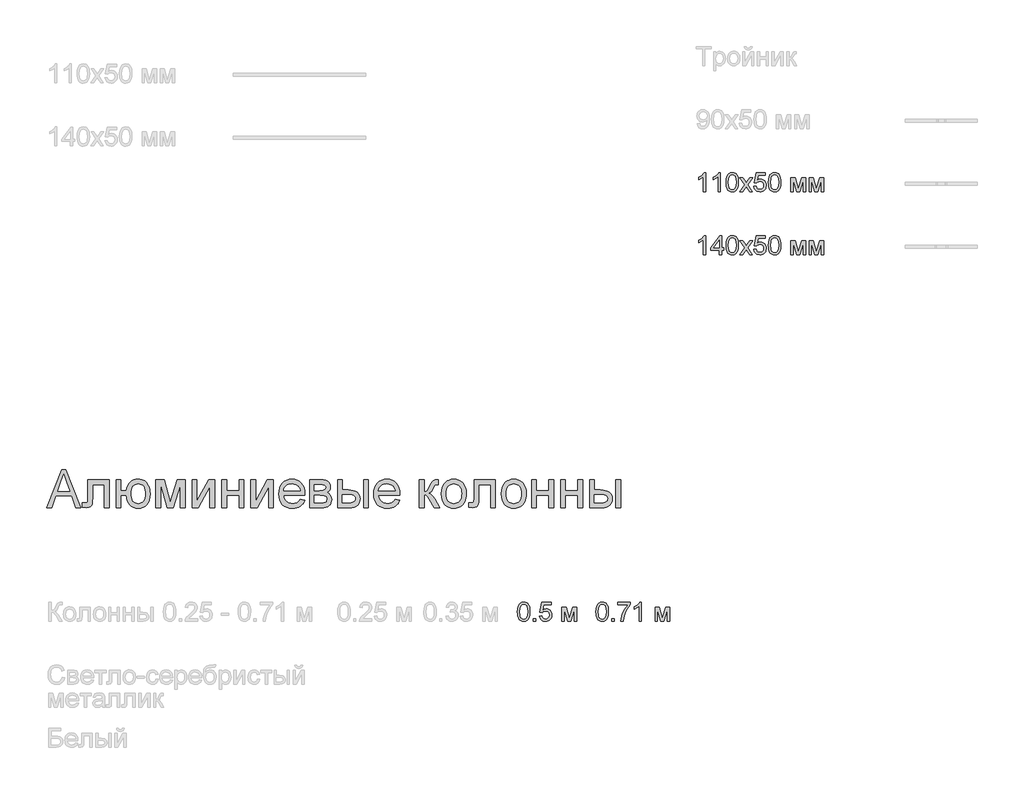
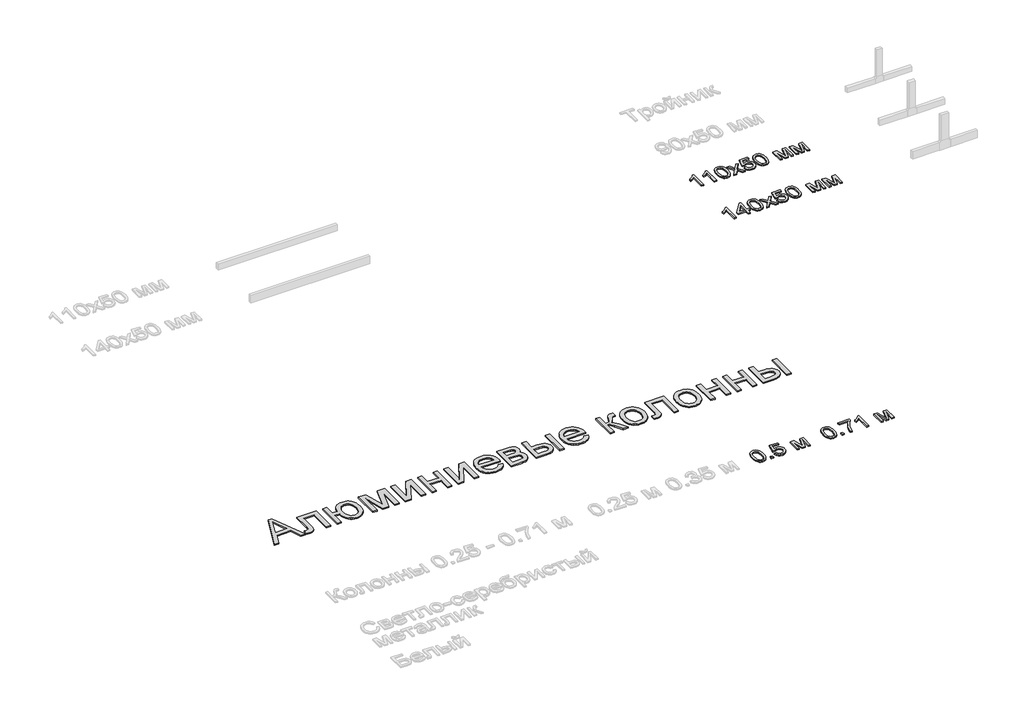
# One storey, part 79 of 168: 5 proxies.
"""IFC4 building model written with IfcOpenShell, lengths in millimetres."""

from ifc_helpers import new_model, si_unit, origin, origin_with_axes, place, context, project, spatial, polyline, outline, extrude, element, save

model = new_model("IFC4")

# Units and contexts
model_context = context("Model", 3, world=origin())
ifc_project = project(units=[si_unit("LENGTHUNIT", "METRE", prefix="MILLI")], contexts=[model_context])

# Site, building, storey
site = spatial("IfcSite", under=ifc_project)
building = spatial("IfcBuilding", under=site)
storey = spatial("IfcBuildingStorey", under=building, Name="Этаж 01", Elevation=0.0)

# Proxies
placement = place(None, origin())
element("IfcBuildingElementProxy", 1, Name="300 мм Arial 2", ObjectType="300 мм Arial 2", at=placement, inside=storey, context=model_context, shape_type="SweptSolid", body=[
    extrude(outline(polyline([(11205.9577491, -24148.4056816), (11168.2866328, -24148.4056816), (11168.2866328, -23913.5498158), (11132.6020793, -23938.9704617), (11092.9444002, -23957.9899609), (11092.9444002, -23922.3789837), (11122.5313096, -23906.2841464), (11148.1634877, -23887.1358886), (11168.3694062, -23866.7736202), (11181.6775374, -23847.0367511), (11205.9577491, -23847.0367511), (11205.9577491, -24148.4056816)])), origin_with_axes(), (0.0, 0.0, 1.0), 20.0),
    extrude(outline(polyline([(11436.6933365, -24148.4056816), (11399.0222202, -24148.4056816), (11399.0222202, -23913.5498158), (11363.3376666, -23938.9704617), (11323.6799876, -23957.9899609), (11323.6799876, -23922.3789837), (11353.266897, -23906.2841464), (11378.899075, -23887.1358886), (11399.1049936, -23866.7736202), (11412.4131248, -23847.0367511), (11436.6933365, -23847.0367511), (11436.6933365, -24148.4056816)])), origin_with_axes(), (0.0, 0.0, 1.0), 20.0),
    extrude(outline(polyline([(11526.1622377, -24000.1492375), (11528.9305497, -23951.9107109), (11537.2354858, -23913.4394512), (11550.9942724, -23884.1468474), (11570.1241361, -23863.4442881), (11594.7630327, -23851.1386354), (11625.048918, -23847.0367511), (11648.2622719, -23849.4647723), (11669.0476046, -23856.7488358), (11686.4300289, -23868.6038331), (11699.4346574, -23884.7446556), (11709.2571067, -23905.0333477), (11717.0929932, -23929.3319534), (11722.224947, -23960.1880558), (11723.9355983, -24000.1492375), (11721.1948774, -24048.1118526), (11712.9727148, -24086.4911418), (11699.2967017, -24115.8113368), (11680.1944291, -24136.5966695), (11655.5003502, -24148.9850957), (11625.048918, -24153.1145711), (11604.3003735, -24151.3211464), (11585.9062737, -24145.9408722), (11569.8666187, -24136.9737486), (11556.1814085, -24124.4197755), (11543.0480213, -24101.7260549), (11533.6670304, -24073.4497251), (11528.0384359, -24039.5907859), (11526.1622377, -24000.1492375)]), holes=[polyline([(11563.833354, -24000.0756611), (11568.2479379, -24059.3322535), (11573.7661679, -24079.6002522), (11581.4916898, -24093.6280525), (11601.2101647, -24109.9896042), (11625.048918, -24115.4434548), (11648.8876713, -24109.9712101), (11668.6061462, -24093.5544761), (11676.3316681, -24079.5036831), (11681.8498981, -24059.240283), (11686.264482, -24000.0756611), (11681.9970509, -23942.152641), (11676.6627619, -23921.9513209), (11669.1947574, -23907.5901275), (11649.5130707, -23890.4284325), (11624.6074596, -23884.7078674), (11601.0262237, -23889.7478508), (11582.080301, -23904.8678008), (11574.0972617, -23920.5027856), (11568.3950907, -23941.5824239), (11563.833354, -24000.0756611)])]), origin_with_axes(), (0.0, 0.0, 1.0), 20.0),
    extrude(outline(polyline([(11742.7711565, -24148.4056816), (11823.263737, -24037.1581662), (11747.480046, -23927.0878733), (11792.8031078, -23927.0878733), (11829.3705781, -23980.0628806), (11846.4403027, -24005.0788562), (11861.2291589, -23984.6246173), (11902.8734008, -23927.0878733), (11948.1964626, -23927.0878733), (11868.5867988, -24037.1581662), (11945.2534066, -24148.4056816), (11899.9303448, -24148.4056816), (11853.7979426, -24081.5247348), (11845.3366567, -24069.3110526), (11788.0942183, -24148.4056816), (11742.7711565, -24148.4056816)])), origin_with_axes(), (0.0, 0.0, 1.0), 20.0),
    extrude(outline(polyline([(11968.7978543, -24068.3545594), (12006.4689706, -24063.6456699), (12013.3851521, -24086.2612155), (12025.4516816, -24102.4572204), (12042.6133766, -24112.1968962), (12064.815055, -24115.4434548), (12091.8175935, -24110.9277033), (12112.0511032, -24097.3804488), (12124.6878498, -24076.3651899), (12128.9000986, -24049.4454249), (12124.9545642, -24024.0983554), (12113.117961, -24004.7109743), (12093.2983185, -23992.4053215), (12065.4036662, -23988.3034373), (12047.1291281, -23989.9405121), (12032.3310749, -23994.8517368), (12011.1778601, -24011.847885), (11973.5067438, -24007.1389954), (12006.4689706, -23851.7456407), (12152.4445463, -23851.7456407), (12152.4445463, -23889.416757), (12036.9295998, -23889.416757), (12020.8163684, -23972.4109351), (12047.7269364, -23956.0769745), (12075.9250913, -23950.632321), (12094.2709065, -23952.3199796), (12111.1222012, -23957.3829556), (12126.4789752, -23965.8212488), (12140.3412286, -23977.6348594), (12151.8168476, -23992.1018189), (12160.0137183, -24008.5001588), (12164.9318408, -24026.8298792), (12166.5712149, -24047.0909801), (12160.6667089, -24084.7620964), (12153.2860764, -24101.5559095), (12142.9531908, -24116.9885592), (12127.2998119, -24132.7936894), (12109.0344709, -24144.0830681), (12088.1571676, -24150.8566954), (12064.6679022, -24153.1145711), (12027.6681706, -24147.3112326), (12011.9894998, -24140.0570595), (11998.1916257, -24129.9012172), (11986.7114082, -24117.3495434), (11977.9857071, -24102.9078758), (11968.7978543, -24068.3545594)])), origin_with_axes(), (0.0, 0.0, 1.0), 20.0),
    extrude(outline(polyline([(12199.5334417, -24000.1492375), (12202.3017537, -23951.9107109), (12210.6066897, -23913.4394512), (12224.3654763, -23884.1468474), (12243.4953401, -23863.4442881), (12268.1342367, -23851.1386354), (12298.420122, -23847.0367511), (12321.6334759, -23849.4647723), (12342.4188086, -23856.7488358), (12359.8012329, -23868.6038331), (12372.8058614, -23884.7446556), (12382.6283107, -23905.0333477), (12390.4641972, -23929.3319534), (12395.596151, -23960.1880558), (12397.3068023, -24000.1492375), (12394.5660814, -24048.1118526), (12386.3439188, -24086.4911418), (12372.6679056, -24115.8113368), (12353.565633, -24136.5966695), (12328.8715541, -24148.9850957), (12298.420122, -24153.1145711), (12277.6715774, -24151.3211464), (12259.2774777, -24145.9408722), (12243.2378227, -24136.9737486), (12229.5526125, -24124.4197755), (12216.4192252, -24101.7260549), (12207.0382344, -24073.4497251), (12201.4096398, -24039.5907859), (12199.5334417, -24000.1492375)]), holes=[polyline([(12237.204558, -24000.0756611), (12241.6191419, -24059.3322535), (12247.1373718, -24079.6002522), (12254.8628937, -24093.6280525), (12274.5813687, -24109.9896042), (12298.420122, -24115.4434548), (12322.2588753, -24109.9712101), (12341.9773502, -24093.5544761), (12349.7028721, -24079.5036831), (12355.221102, -24059.240283), (12359.635686, -24000.0756611), (12355.3682548, -23942.152641), (12350.0339659, -23921.9513209), (12342.5659614, -23907.5901275), (12322.8842747, -23890.4284325), (12297.9786636, -23884.7078674), (12274.3974277, -23889.7478508), (12255.4515049, -23904.8678008), (12247.4684656, -23920.5027856), (12241.7662947, -23941.5824239), (12237.204558, -24000.0756611)])]), origin_with_axes(), (0.0, 0.0, 1.0), 20.0),
    extrude(outline(polyline([(12557.4090466, -23927.0878733), (12622.2298541, -23927.0878733), (12672.1882291, -24104.2598421), (12726.0461532, -23927.0878733), (12788.144634, -23927.0878733), (12788.144634, -24148.4056816), (12750.4735176, -24148.4056816), (12750.4735176, -23970.2036431), (12696.321288, -24148.4056816), (12646.8779478, -24148.4056816), (12595.0801629, -23961.6687808), (12595.0801629, -24148.4056816), (12557.4090466, -24148.4056816), (12557.4090466, -23927.0878733)])), origin_with_axes(), (0.0, 0.0, 1.0), 20.0),
    extrude(outline(polyline([(12844.6513084, -23927.0878733), (12909.472116, -23927.0878733), (12959.4304909, -24104.2598421), (13013.288415, -23927.0878733), (13075.3868958, -23927.0878733), (13075.3868958, -24148.4056816), (13037.7157795, -24148.4056816), (13037.7157795, -23970.2036431), (12983.5635498, -24148.4056816), (12934.1202096, -24148.4056816), (12882.3224247, -23961.6687808), (12882.3224247, -24148.4056816), (12844.6513084, -24148.4056816), (12844.6513084, -23927.0878733)])), origin_with_axes(), (0.0, 0.0, 1.0), 20.0),
])
element("IfcBuildingElementProxy", 2, Name="300 мм Arial 2", ObjectType="300 мм Arial 2", at=placement, inside=storey, context=model_context, shape_type="SweptSolid", body=[
    extrude(outline(polyline([(11205.9577491, -25148.4056816), (11168.2866328, -25148.4056816), (11168.2866328, -24913.5498158), (11132.6020793, -24938.9704617), (11092.9444002, -24957.9899609), (11092.9444002, -24922.3789837), (11122.5313096, -24906.2841464), (11148.1634877, -24887.1358886), (11168.3694062, -24866.7736202), (11181.6775374, -24847.0367511), (11205.9577491, -24847.0367511), (11205.9577491, -25148.4056816)])), origin_with_axes(), (0.0, 0.0, 1.0), 20.0),
    extrude(outline(polyline([(11417.8577783, -25148.4056816), (11417.8577783, -25077.7723385), (11281.2999817, -25077.7723385), (11281.2999817, -25040.1012222), (11427.2755574, -24851.7456407), (11455.5288946, -24851.7456407), (11455.5288946, -25040.1012222), (11493.2000109, -25040.1012222), (11493.2000109, -25077.7723385), (11455.5288946, -25077.7723385), (11455.5288946, -25148.4056816), (11417.8577783, -25148.4056816)]), holes=[polyline([(11417.8577783, -25040.1012222), (11417.8577783, -24923.7033589), (11327.6531131, -25040.1012222), (11417.8577783, -25040.1012222)])]), origin_with_axes(), (0.0, 0.0, 1.0), 20.0),
    extrude(outline(polyline([(11526.1622377, -25000.1492375), (11528.9305497, -24951.9107109), (11537.2354858, -24913.4394512), (11550.9942724, -24884.1468474), (11570.1241361, -24863.4442881), (11594.7630327, -24851.1386354), (11625.048918, -24847.0367511), (11648.2622719, -24849.4647723), (11669.0476046, -24856.7488358), (11686.4300289, -24868.6038331), (11699.4346574, -24884.7446556), (11709.2571067, -24905.0333477), (11717.0929932, -24929.3319534), (11722.224947, -24960.1880558), (11723.9355983, -25000.1492375), (11721.1948774, -25048.1118526), (11712.9727148, -25086.4911418), (11699.2967017, -25115.8113368), (11680.1944291, -25136.5966695), (11655.5003502, -25148.9850957), (11625.048918, -25153.1145711), (11604.3003735, -25151.3211464), (11585.9062737, -25145.9408722), (11569.8666187, -25136.9737486), (11556.1814085, -25124.4197755), (11543.0480213, -25101.7260549), (11533.6670304, -25073.4497251), (11528.0384359, -25039.5907859), (11526.1622377, -25000.1492375)]), holes=[polyline([(11563.833354, -25000.0756611), (11568.2479379, -25059.3322535), (11573.7661679, -25079.6002522), (11581.4916898, -25093.6280525), (11601.2101647, -25109.9896042), (11625.048918, -25115.4434548), (11648.8876713, -25109.9712101), (11668.6061462, -25093.5544761), (11676.3316681, -25079.5036831), (11681.8498981, -25059.240283), (11686.264482, -25000.0756611), (11681.9970509, -24942.152641), (11676.6627619, -24921.9513209), (11669.1947574, -24907.5901275), (11649.5130707, -24890.4284325), (11624.6074596, -24884.7078674), (11601.0262237, -24889.7478508), (11582.080301, -24904.8678008), (11574.0972617, -24920.5027856), (11568.3950907, -24941.5824239), (11563.833354, -25000.0756611)])]), origin_with_axes(), (0.0, 0.0, 1.0), 20.0),
    extrude(outline(polyline([(11742.7711565, -25148.4056816), (11823.263737, -25037.1581662), (11747.480046, -24927.0878733), (11792.8031078, -24927.0878733), (11829.3705781, -24980.0628806), (11846.4403027, -25005.0788562), (11861.2291589, -24984.6246173), (11902.8734008, -24927.0878733), (11948.1964626, -24927.0878733), (11868.5867988, -25037.1581662), (11945.2534066, -25148.4056816), (11899.9303448, -25148.4056816), (11853.7979426, -25081.5247348), (11845.3366567, -25069.3110526), (11788.0942183, -25148.4056816), (11742.7711565, -25148.4056816)])), origin_with_axes(), (0.0, 0.0, 1.0), 20.0),
    extrude(outline(polyline([(11968.7978543, -25068.3545594), (12006.4689706, -25063.6456699), (12013.3851521, -25086.2612155), (12025.4516816, -25102.4572204), (12042.6133766, -25112.1968962), (12064.815055, -25115.4434548), (12091.8175935, -25110.9277033), (12112.0511032, -25097.3804488), (12124.6878498, -25076.3651899), (12128.9000986, -25049.4454249), (12124.9545642, -25024.0983554), (12113.117961, -25004.7109743), (12093.2983185, -24992.4053215), (12065.4036662, -24988.3034373), (12047.1291281, -24989.9405121), (12032.3310749, -24994.8517368), (12011.1778601, -25011.847885), (11973.5067438, -25007.1389954), (12006.4689706, -24851.7456407), (12152.4445463, -24851.7456407), (12152.4445463, -24889.416757), (12036.9295998, -24889.416757), (12020.8163684, -24972.4109351), (12047.7269364, -24956.0769745), (12075.9250913, -24950.632321), (12094.2709065, -24952.3199796), (12111.1222012, -24957.3829556), (12126.4789752, -24965.8212488), (12140.3412286, -24977.6348594), (12151.8168476, -24992.1018189), (12160.0137183, -25008.5001588), (12164.9318408, -25026.8298792), (12166.5712149, -25047.0909801), (12160.6667089, -25084.7620964), (12153.2860764, -25101.5559095), (12142.9531908, -25116.9885592), (12127.2998119, -25132.7936894), (12109.0344709, -25144.0830681), (12088.1571676, -25150.8566954), (12064.6679022, -25153.1145711), (12027.6681706, -25147.3112326), (12011.9894998, -25140.0570595), (11998.1916257, -25129.9012172), (11986.7114082, -25117.3495434), (11977.9857071, -25102.9078758), (11968.7978543, -25068.3545594)])), origin_with_axes(), (0.0, 0.0, 1.0), 20.0),
    extrude(outline(polyline([(12199.5334417, -25000.1492375), (12202.3017537, -24951.9107109), (12210.6066897, -24913.4394512), (12224.3654763, -24884.1468474), (12243.4953401, -24863.4442881), (12268.1342367, -24851.1386354), (12298.420122, -24847.0367511), (12321.6334759, -24849.4647723), (12342.4188086, -24856.7488358), (12359.8012329, -24868.6038331), (12372.8058614, -24884.7446556), (12382.6283107, -24905.0333477), (12390.4641972, -24929.3319534), (12395.596151, -24960.1880558), (12397.3068023, -25000.1492375), (12394.5660814, -25048.1118526), (12386.3439188, -25086.4911418), (12372.6679056, -25115.8113368), (12353.565633, -25136.5966695), (12328.8715541, -25148.9850957), (12298.420122, -25153.1145711), (12277.6715774, -25151.3211464), (12259.2774777, -25145.9408722), (12243.2378227, -25136.9737486), (12229.5526125, -25124.4197755), (12216.4192252, -25101.7260549), (12207.0382344, -25073.4497251), (12201.4096398, -25039.5907859), (12199.5334417, -25000.1492375)]), holes=[polyline([(12237.204558, -25000.0756611), (12241.6191419, -25059.3322535), (12247.1373718, -25079.6002522), (12254.8628937, -25093.6280525), (12274.5813687, -25109.9896042), (12298.420122, -25115.4434548), (12322.2588753, -25109.9712101), (12341.9773502, -25093.5544761), (12349.7028721, -25079.5036831), (12355.221102, -25059.240283), (12359.635686, -25000.0756611), (12355.3682548, -24942.152641), (12350.0339659, -24921.9513209), (12342.5659614, -24907.5901275), (12322.8842747, -24890.4284325), (12297.9786636, -24884.7078674), (12274.3974277, -24889.7478508), (12255.4515049, -24904.8678008), (12247.4684656, -24920.5027856), (12241.7662947, -24941.5824239), (12237.204558, -25000.0756611)])]), origin_with_axes(), (0.0, 0.0, 1.0), 20.0),
    extrude(outline(polyline([(12557.4090466, -24927.0878733), (12622.2298541, -24927.0878733), (12672.1882291, -25104.2598421), (12726.0461532, -24927.0878733), (12788.144634, -24927.0878733), (12788.144634, -25148.4056816), (12750.4735176, -25148.4056816), (12750.4735176, -24970.2036431), (12696.321288, -25148.4056816), (12646.8779478, -25148.4056816), (12595.0801629, -24961.6687808), (12595.0801629, -25148.4056816), (12557.4090466, -25148.4056816), (12557.4090466, -24927.0878733)])), origin_with_axes(), (0.0, 0.0, 1.0), 20.0),
    extrude(outline(polyline([(12844.6513084, -24927.0878733), (12909.472116, -24927.0878733), (12959.4304909, -25104.2598421), (13013.288415, -24927.0878733), (13075.3868958, -24927.0878733), (13075.3868958, -25148.4056816), (13037.7157795, -25148.4056816), (13037.7157795, -24970.2036431), (12983.5635498, -25148.4056816), (12934.1202096, -25148.4056816), (12882.3224247, -24961.6687808), (12882.3224247, -25148.4056816), (12844.6513084, -25148.4056816), (12844.6513084, -24927.0878733)])), origin_with_axes(), (0.0, 0.0, 1.0), 20.0),
])
element("IfcBuildingElementProxy", 3, Name="300 мм Arial 2", ObjectType="300 мм Arial 2", at=placement, inside=storey, context=model_context, shape_type="SweptSolid", body=[
    extrude(outline(polyline([(8216.6224224, -30818.6058537), (8219.3907344, -30770.3673271), (8227.6956705, -30731.8960674), (8241.4544571, -30702.6034635), (8260.5843208, -30681.9009043), (8285.2232175, -30669.5952515), (8315.5091027, -30665.4933673), (8338.7224566, -30667.9213885), (8359.5077894, -30675.205452), (8376.8902136, -30687.0604493), (8389.8948422, -30703.2012718), (8399.7172914, -30723.4899638), (8407.5531779, -30747.7885696), (8412.6851318, -30778.644672), (8414.395783, -30818.6058537), (8411.6550622, -30866.5684688), (8403.4328996, -30904.9477579), (8389.7568864, -30934.267953), (8370.6546138, -30955.0532857), (8345.9605349, -30967.4417119), (8315.5091027, -30971.5711873), (8294.7605582, -30969.7777625), (8276.3664584, -30964.3974884), (8260.3268035, -30955.4303647), (8246.6415932, -30942.8763916), (8233.508206, -30920.1826711), (8224.1272151, -30891.9063412), (8218.4986206, -30858.0474021), (8216.6224224, -30818.6058537)]), holes=[polyline([(8254.2935387, -30818.5322773), (8258.7081227, -30877.7888697), (8264.2263526, -30898.0568683), (8271.9518745, -30912.0846687), (8291.6703494, -30928.4462204), (8315.5091027, -30933.900071), (8339.347856, -30928.4278263), (8359.066331, -30912.0110923), (8366.7918529, -30897.9602993), (8372.3100828, -30877.6968992), (8376.7246667, -30818.5322773), (8372.4572356, -30760.6092571), (8367.1229467, -30740.4079371), (8359.6549421, -30726.0467437), (8339.9732554, -30708.8850486), (8315.0676443, -30703.1644836), (8291.4864084, -30708.2044669), (8272.5404857, -30723.3244169), (8264.5574464, -30738.9594017), (8258.8552755, -30760.03904), (8254.2935387, -30818.5322773)])]), origin_with_axes(), (0.0, 0.0, 1.0), 20.0),
    extrude(outline(polyline([(8466.193568, -30966.8622977), (8466.193568, -30929.1911814), (8503.8646843, -30929.1911814), (8503.8646843, -30966.8622977), (8466.193568, -30966.8622977)])), origin_with_axes(), (0.0, 0.0, 1.0), 20.0),
    extrude(outline(polyline([(8565.0802483, -30886.8111756), (8602.7513646, -30882.102286), (8609.6675461, -30904.7178317), (8621.7340755, -30920.9138365), (8638.8957706, -30930.6535124), (8661.097449, -30933.900071), (8688.0999874, -30929.3843195), (8708.3334972, -30915.837065), (8720.9702437, -30894.821806), (8725.1824926, -30867.902041), (8721.2369582, -30842.5549716), (8709.400355, -30823.1675904), (8689.5807125, -30810.8619377), (8661.6860602, -30806.7600534), (8643.4115221, -30808.3971283), (8628.6134688, -30813.3083529), (8607.4602541, -30830.3045011), (8569.7891378, -30825.5956116), (8602.7513646, -30670.2022568), (8748.7269402, -30670.2022568), (8748.7269402, -30707.8733731), (8633.2119938, -30707.8733731), (8617.0987624, -30790.8675512), (8644.0093303, -30774.5335907), (8672.2074853, -30769.0889371), (8690.5533005, -30770.7765958), (8707.4045951, -30775.8395717), (8722.7613692, -30784.277865), (8736.6236226, -30796.0914756), (8748.0992416, -30810.558435), (8756.2961123, -30826.956775), (8761.2142347, -30845.2864954), (8762.8536089, -30865.5475963), (8756.9491028, -30903.2187126), (8749.5684703, -30920.0125256), (8739.2355848, -30935.4451753), (8723.5822059, -30951.2503056), (8705.3168648, -30962.5396843), (8684.4395616, -30969.3133115), (8660.9502962, -30971.5711873), (8623.9505645, -30965.7678488), (8608.2718938, -30958.5136757), (8594.4740197, -30948.3578334), (8582.9938022, -30935.8061596), (8574.2681011, -30921.364492), (8565.0802483, -30886.8111756)])), origin_with_axes(), (0.0, 0.0, 1.0), 20.0),
    extrude(outline(polyline([(8922.9558532, -30745.5444894), (8987.7766607, -30745.5444894), (9037.7350357, -30922.7164583), (9091.5929598, -30745.5444894), (9153.6914405, -30745.5444894), (9153.6914405, -30966.8622977), (9116.0203242, -30966.8622977), (9116.0203242, -30788.6602593), (9061.8680945, -30966.8622977), (9012.4247544, -30966.8622977), (8960.6269695, -30780.125397), (8960.6269695, -30966.8622977), (8922.9558532, -30966.8622977), (8922.9558532, -30745.5444894)])), origin_with_axes(), (0.0, 0.0, 1.0), 20.0),
])
element("IfcBuildingElementProxy", 4, Name="300 мм Arial 2", ObjectType="300 мм Arial 2", at=placement, inside=storey, context=model_context, shape_type="SweptSolid", body=[
    extrude(outline(polyline([(9462.5881022, -30818.6058537), (9465.3564142, -30770.3673271), (9473.6613502, -30731.8960674), (9487.4201368, -30702.6034635), (9506.5500006, -30681.9009043), (9531.1888972, -30669.5952515), (9561.4747825, -30665.4933673), (9584.6881364, -30667.9213885), (9605.4734691, -30675.205452), (9622.8558934, -30687.0604493), (9635.8605219, -30703.2012718), (9645.6829712, -30723.4899638), (9653.5188577, -30747.7885696), (9658.6508115, -30778.644672), (9660.3614628, -30818.6058537), (9657.6207419, -30866.5684688), (9649.3985793, -30904.9477579), (9635.7225661, -30934.267953), (9616.6202935, -30955.0532857), (9591.9262146, -30967.4417119), (9561.4747825, -30971.5711873), (9540.7262379, -30969.7777625), (9522.3321382, -30964.3974884), (9506.2924832, -30955.4303647), (9492.607273, -30942.8763916), (9479.4738857, -30920.1826711), (9470.0928949, -30891.9063412), (9464.4643003, -30858.0474021), (9462.5881022, -30818.6058537)]), holes=[polyline([(9500.2592185, -30818.5322773), (9504.6738024, -30877.7888697), (9510.1920323, -30898.0568683), (9517.9175542, -30912.0846687), (9537.6360292, -30928.4462204), (9561.4747825, -30933.900071), (9585.3135358, -30928.4278263), (9605.0320107, -30912.0110923), (9612.7575326, -30897.9602993), (9618.2757625, -30877.6968992), (9622.6903465, -30818.5322773), (9618.4229153, -30760.6092571), (9613.0886264, -30740.4079371), (9605.6206219, -30726.0467437), (9585.9389351, -30708.8850486), (9561.0333241, -30703.1644836), (9537.4520882, -30708.2044669), (9518.5061654, -30723.3244169), (9510.5231261, -30738.9594017), (9504.8209552, -30760.03904), (9500.2592185, -30818.5322773)])]), origin_with_axes(), (0.0, 0.0, 1.0), 20.0),
    extrude(outline(polyline([(9712.1592477, -30966.8622977), (9712.1592477, -30929.1911814), (9749.830364, -30929.1911814), (9749.830364, -30966.8622977), (9712.1592477, -30966.8622977)])), origin_with_axes(), (0.0, 0.0, 1.0), 20.0),
    extrude(outline(polyline([(9811.045928, -30707.8733731), (9811.045928, -30670.2022568), (10008.8192886, -30670.2022568), (10008.8192886, -30700.662886), (9980.6303307, -30736.3382425), (9952.7172843, -30781.7072896), (9928.0967818, -30832.6313547), (9909.7854555, -30884.9717656), (9900.8091348, -30924.132804), (9895.8059397, -30966.8622977), (9858.1348234, -30966.8622977), (9862.2091165, -30928.0323531), (9873.1076206, -30881.8815568), (9890.5360301, -30832.9624485), (9914.2000394, -30785.8275679), (9941.8279773, -30743.2176358), (9971.1481723, -30707.8733731), (9811.045928, -30707.8733731)])), origin_with_axes(), (0.0, 0.0, 1.0), 20.0),
    extrude(outline(polyline([(10183.0482015, -30966.8622977), (10145.3770852, -30966.8622977), (10145.3770852, -30732.006432), (10109.6925317, -30757.4270779), (10070.0348526, -30776.446577), (10070.0348526, -30740.8355999), (10099.6217621, -30724.7407626), (10125.2539401, -30705.5925048), (10145.4598587, -30685.2302363), (10158.7679898, -30665.4933673), (10183.0482015, -30665.4933673), (10183.0482015, -30966.8622977)])), origin_with_axes(), (0.0, 0.0, 1.0), 20.0),
    extrude(outline(polyline([(10399.6571203, -30745.5444894), (10464.4779278, -30745.5444894), (10514.4363028, -30922.7164583), (10568.2942269, -30745.5444894), (10630.3927077, -30745.5444894), (10630.3927077, -30966.8622977), (10592.7215913, -30966.8622977), (10592.7215913, -30788.6602593), (10538.5693617, -30966.8622977), (10489.1260215, -30966.8622977), (10437.3282366, -30780.125397), (10437.3282366, -30966.8622977), (10399.6571203, -30966.8622977), (10399.6571203, -30745.5444894)])), origin_with_axes(), (0.0, 0.0, 1.0), 20.0),
])
element("IfcBuildingElementProxy", 5, Name="600 мм Arial", ObjectType="600 мм Arial", at=placement, inside=storey, context=model_context, shape_type="SweptSolid", body=[
    extrude(outline(polyline([(741.5880737, -29166.8622977), (982.1828985, -28564.1244368), (1046.3415185, -28564.1244368), (1286.9363433, -29166.8622977), (1207.3266795, -29166.8622977), (1138.3120172, -28978.5067162), (890.0652469, -28978.5067162), (821.1977374, -29166.8622977), (741.5880737, -29166.8622977)]), holes=[polyline([(917.7299729, -28903.1644836), (1110.794444, -28903.1644836), (1056.4950615, -28754.9816159), (1014.2622085, -28639.4666694), (976.738245, -28742.0321697), (917.7299729, -28903.1644836)])]), origin_with_axes(), (0.0, 0.0, 1.0), 20.0),
    extrude(outline(polyline([(1395.6822611, -28724.2266811), (1734.7223078, -28724.2266811), (1734.7223078, -29166.4208393), (1659.3800752, -29166.4208393), (1659.3800752, -28799.5689137), (1471.0244937, -28799.5689137), (1471.0244937, -29010.733179), (1469.7553008, -29072.0223194), (1465.9477222, -29108.1483313), (1456.4379726, -29130.2028569), (1438.0622669, -29149.2775384), (1410.1768117, -29162.4661079), (1372.1378134, -29166.8622977), (1310.9222494, -29163.036325), (1310.9222494, -29091.5200651), (1344.6202401, -29091.5200651), (1365.056085, -29090.3612368), (1378.6861129, -29086.884752), (1387.2025811, -29080.8882755), (1392.2977467, -29072.1694722), (1395.6822611, -29006.4657478), (1395.6822611, -28724.2266811)])), origin_with_axes(), (0.0, 0.0, 1.0), 20.0),
    extrude(outline(polyline([(1847.7356567, -28724.2266811), (1923.0778894, -28724.2266811), (1923.0778894, -28893.7467045), (2007.837901, -28893.7467045), (2015.1909424, -28852.7646503), (2027.3908291, -28816.9329439), (2044.437561, -28786.2515855), (2066.3311383, -28760.7205751), (2092.4553585, -28740.6342181), (2122.1940192, -28726.2868203), (2155.5471206, -28717.6783816), (2192.5146626, -28714.8089021), (2223.8076248, -28716.4965607), (2251.6149052, -28721.5595367), (2275.9365036, -28729.9978299), (2296.7724201, -28741.8114405), (2331.610845, -28773.9091446), (2359.7538176, -28816.1971799), (2370.601738, -28841.9489196), (2378.3502525, -28871.8209376), (2382.9993612, -28905.813234), (2384.5490641, -28943.9258087), (2381.3438922, -28997.63658), (2371.7283766, -29044.4311697), (2355.7025172, -29084.309578), (2333.266314, -29117.2718048), (2305.339472, -29143.0879238), (2272.8416963, -29161.5280088), (2235.7729867, -29172.5920598), (2194.1333434, -29176.2800768), (2155.3263914, -29172.8219861), (2120.5753385, -29162.4477138), (2089.8801845, -29145.15726), (2063.2409295, -29120.9506247), (2041.3197611, -29090.7107247), (2024.7788669, -29055.3204768), (2013.6182469, -29014.7798809), (2007.837901, -28969.0889371), (1923.0778894, -28969.0889371), (1923.0778894, -29166.8622977), (1847.7356567, -29166.8622977), (1847.7356567, -28724.2266811)]), holes=[polyline([(2197.370705, -28790.1511347), (2171.8626871, -28792.5883529), (2149.3437105, -28799.9000075), (2129.8137751, -28812.0860986), (2113.2728809, -28829.1466262), (2100.107304, -28850.6033435), (2090.7033205, -28875.9780041), (2085.0609304, -28905.270608), (2083.1801337, -28938.4811551), (2085.0747259, -28977.6927773), (2090.7585028, -29011.3033961), (2100.2314641, -29039.3130115), (2113.4936101, -29061.7216235), (2129.9287382, -29078.8787201), (2148.9206462, -29091.133789), (2170.4693341, -29098.4868304), (2194.5748018, -29100.9378442), (2218.6020946, -29098.6707714), (2240.3577161, -29091.869553), (2259.8416663, -29080.534189), (2277.0539451, -29064.6646795), (2291.1208329, -29043.7459895), (2301.1686099, -29017.2630844), (2307.1972761, -28985.2159641), (2309.2068315, -28947.6046286), (2307.4685891, -28910.701466), (2302.2538618, -28878.718725), (2293.5626497, -28851.6564057), (2281.3949527, -28829.5145082), (2265.7139826, -28812.2930323), (2246.4829513, -28799.991978), (2223.7018588, -28792.6113455), (2197.370705, -28790.1511347)])]), origin_with_axes(), (0.0, 0.0, 1.0), 20.0),
    extrude(outline(polyline([(2478.7268549, -28724.2266811), (2608.36847, -28724.2266811), (2708.2852199, -29078.5706189), (2816.0010681, -28724.2266811), (2940.1980296, -28724.2266811), (2940.1980296, -29166.8622977), (2864.855797, -29166.8622977), (2864.855797, -28810.4582208), (2756.5513376, -29166.8622977), (2657.6646573, -29166.8622977), (2554.0690875, -28793.3884962), (2554.0690875, -29166.8622977), (2478.7268549, -29166.8622977), (2478.7268549, -28724.2266811)])), origin_with_axes(), (0.0, 0.0, 1.0), 20.0),
    extrude(outline(polyline([(3053.2113785, -28724.2266811), (3128.5536112, -28724.2266811), (3128.5536112, -29061.7951999), (3313.6718311, -28724.2266811), (3411.0869835, -28724.2266811), (3411.0869835, -29166.8622977), (3335.7447508, -29166.8622977), (3335.7447508, -28831.3539181), (3151.8037533, -29166.8622977), (3053.2113785, -29166.8622977), (3053.2113785, -28724.2266811)])), origin_with_axes(), (0.0, 0.0, 1.0), 20.0),
    extrude(outline(polyline([(3524.1003324, -28724.2266811), (3599.442565, -28724.2266811), (3599.442565, -28893.7467045), (3797.2159256, -28893.7467045), (3797.2159256, -28724.2266811), (3872.5581582, -28724.2266811), (3872.5581582, -29166.8622977), (3797.2159256, -29166.8622977), (3797.2159256, -28969.0889371), (3599.442565, -28969.0889371), (3599.442565, -29166.8622977), (3524.1003324, -29166.8622977), (3524.1003324, -28724.2266811)])), origin_with_axes(), (0.0, 0.0, 1.0), 20.0),
    extrude(outline(polyline([(3985.5715071, -28724.2266811), (4060.9137397, -28724.2266811), (4060.9137397, -29061.7951999), (4246.0319597, -28724.2266811), (4343.447112, -28724.2266811), (4343.447112, -29166.8622977), (4268.1048794, -29166.8622977), (4268.1048794, -28831.3539181), (4084.1638818, -29166.8622977), (3985.5715071, -29166.8622977), (3985.5715071, -28724.2266811)])), origin_with_axes(), (0.0, 0.0, 1.0), 20.0),
    extrude(outline(polyline([(4766.3642537, -29035.0133907), (4840.2349583, -29044.4311697), (4828.9087914, -29074.0180792), (4813.618696, -29100.0917156), (4794.364672, -29122.652079), (4771.1467196, -29141.6991693), (4744.203962, -29156.8283163), (4713.7755225, -29167.6348499), (4679.861401, -29174.1187701), (4642.4615977, -29176.2800768), (4595.7129932, -29172.5506731), (4554.0595543, -29161.3624619), (4517.501281, -29142.7154433), (4486.0381734, -29116.6096172), (4460.7370891, -29083.7715506), (4442.6648861, -29044.9278104), (4431.8215643, -29000.0783967), (4428.2071237, -28949.2233094), (4431.8583525, -28896.6437752), (4442.8120389, -28850.2998409), (4461.0681829, -28810.1915064), (4486.6267846, -28776.3187717), (4518.0071187, -28749.4082037), (4553.7284605, -28730.1863695), (4593.7908097, -28718.6532689), (4638.1941666, -28714.8089021), (4681.1673821, -28718.6440719), (4720.0295164, -28730.1495813), (4754.7805694, -28749.3254303), (4785.420541, -28776.1716189), (4810.4319182, -28809.9707772), (4828.2971876, -28850.0055353), (4839.0163492, -28896.2758932), (4842.5894031, -28948.781851), (4842.1479447, -28969.0889371), (4503.5493563, -28969.0889371), (4507.9133565, -28999.1540932), (4516.5907731, -29025.485247), (4529.581606, -29048.0823985), (4546.8858554, -29066.9455478), (4567.5470279, -29081.8171775), (4590.6086305, -29092.4397701), (4616.0706631, -29098.8133257), (4643.9331257, -29100.9378442), (4684.0322632, -29097.0015068), (4717.8038303, -29085.1924948), (4745.2478272, -29064.7750441), (4766.3642537, -29035.0133907)]), holes=[polyline([(4503.5493563, -28893.7467045), (4767.2471705, -28893.7467045), (4757.0568392, -28853.9418726), (4748.2920507, -28838.2884937), (4737.0808469, -28825.4678062), (4716.5346374, -28810.0167624), (4693.1557366, -28798.9803026), (4666.9441445, -28792.3584266), (4637.899861, -28790.1511347), (4611.4077588, -28791.9123697), (4587.1137515, -28797.1960749), (4565.0178392, -28806.0022501), (4545.1200218, -28818.3308955), (4528.4227777, -28833.6117939), (4515.9285855, -28851.2747282), (4507.637445, -28871.3196984), (4503.5493563, -28893.7467045)])]), origin_with_axes(), (0.0, 0.0, 1.0), 20.0),
    extrude(outline(polyline([(4917.9316357, -28724.2266811), (5083.9199919, -28724.2266811), (5137.2812753, -28726.7466728), (5174.9339975, -28734.3066478), (5202.6355118, -28748.5804692), (5226.1431713, -28771.2420001), (5242.2012203, -28800.7645302), (5247.5539034, -28835.6213493), (5244.3165418, -28863.7091396), (5234.6044571, -28887.934169), (5218.3808612, -28908.406802), (5195.6089657, -28925.2374033), (5223.4944209, -28940.8907822), (5246.2295282, -28966.0723048), (5261.3494782, -28998.7954082), (5266.3894615, -29037.0735298), (5262.2048038, -29067.9112381), (5253.6239563, -29094.4999093), (5240.6469189, -29116.8395434), (5223.2736917, -29134.9301406), (5201.4766835, -29148.9004593), (5175.2283031, -29158.8792584), (5144.5285506, -29164.8665379), (5109.377426, -29166.8622977), (4917.9316357, -29166.8622977), (4917.9316357, -28724.2266811)]), holes=[polyline([(4993.2738683, -28893.7467045), (5067.7331841, -28893.7467045), (5129.1694773, -28889.9207318), (5144.9884031, -28884.1817726), (5159.0414953, -28874.6168408), (5168.9191269, -28861.9617001), (5172.2116708, -28846.9521147), (5170.7677339, -28834.7108413), (5166.4359234, -28824.4745248), (5159.2162393, -28816.2431652), (5149.1086815, -28810.0167624), (5117.8019237, -28802.1808759), (5070.0876289, -28799.5689137), (4993.2738683, -28799.5689137), (4993.2738683, -28893.7467045)]), polyline([(4993.2738683, -29091.5200651), (5085.6858255, -29091.5200651), (5136.0488706, -29088.1171567), (5167.649934, -29077.9084313), (5177.4447921, -29069.8656112), (5184.609294, -29059.3487846), (5191.0472289, -29030.8931123), (5187.8282615, -29012.0391601), (5178.1713591, -28994.6199476), (5163.3457147, -28980.9899197), (5144.6205211, -28973.5035211), (5078.3281856, -28969.0889371), (4993.2738683, -28969.0889371), (4993.2738683, -29091.5200651)])]), origin_with_axes(), (0.0, 0.0, 1.0), 20.0),
    extrude(outline(polyline([(5774.9495317, -28724.2266811), (5850.2917643, -28724.2266811), (5850.2917643, -29166.8622977), (5774.9495317, -29166.8622977), (5774.9495317, -28724.2266811)])), origin_with_axes(), (0.0, 0.0, 1.0), 20.0),
    extrude(outline(polyline([(5360.5672523, -28724.2266811), (5435.9094849, -28724.2266811), (5435.9094849, -28884.3289254), (5529.0572061, -28884.3289254), (5571.920057, -28886.6879687), (5609.5681807, -28893.7650986), (5642.0015771, -28905.5603151), (5669.2202462, -28922.0736181), (5690.7551385, -28942.7347907), (5706.1372045, -28966.9736157), (5715.366444, -28994.790093), (5718.4428572, -29026.1842228), (5715.8630847, -29054.1938382), (5708.1237672, -29080.0973292), (5695.2249048, -29103.8946957), (5677.1664973, -29125.5859379), (5653.4427072, -29143.6443453), (5623.5476965, -29156.5432078), (5587.4814654, -29164.2825252), (5545.2440139, -29166.8622977), (5360.5672523, -29166.8622977), (5360.5672523, -28724.2266811)]), holes=[polyline([(5435.9094849, -29091.5200651), (5513.3118567, -29091.5200651), (5573.3134101, -29087.5653337), (5595.781803, -29082.6219194), (5613.2286066, -29075.7011393), (5626.2976145, -29066.6834319), (5635.6326201, -29055.4492355), (5641.2336235, -29041.99855), (5643.1006246, -29026.3313756), (5637.5640006, -29001.7200701), (5620.9541285, -28979.9782442), (5606.5377528, -28971.093894), (5585.4351218, -28964.7479296), (5523.1710942, -28959.6711581), (5435.9094849, -28959.6711581), (5435.9094849, -29091.5200651)])]), origin_with_axes(), (0.0, 0.0, 1.0), 20.0),
    extrude(outline(polyline([(6273.2089059, -29035.0133907), (6347.0796106, -29044.4311697), (6335.7534436, -29074.0180792), (6320.4633482, -29100.0917156), (6301.2093243, -29122.652079), (6277.9913719, -29141.6991693), (6251.0486142, -29156.8283163), (6220.6201747, -29167.6348499), (6186.7060533, -29174.1187701), (6149.30625, -29176.2800768), (6102.5576454, -29172.5506731), (6060.9042065, -29161.3624619), (6024.3459332, -29142.7154433), (5992.8828256, -29116.6096172), (5967.5817414, -29083.7715506), (5949.5095384, -29044.9278104), (5938.6662166, -29000.0783967), (5935.051776, -28949.2233094), (5938.7030048, -28896.6437752), (5949.6566912, -28850.2998409), (5967.9128352, -28810.1915064), (5993.4714368, -28776.3187717), (6024.851771, -28749.4082037), (6060.5731127, -28730.1863695), (6100.635462, -28718.6532689), (6145.0388188, -28714.8089021), (6188.0120344, -28718.6440719), (6226.8741686, -28730.1495813), (6261.6252216, -28749.3254303), (6292.2651933, -28776.1716189), (6317.2765704, -28809.9707772), (6335.1418398, -28850.0055353), (6345.8610014, -28896.2758932), (6349.4340553, -28948.781851), (6348.9925969, -28969.0889371), (6010.3940086, -28969.0889371), (6014.7580087, -28999.1540932), (6023.4354253, -29025.485247), (6036.4262583, -29048.0823985), (6053.7305076, -29066.9455478), (6074.3916802, -29081.8171775), (6097.4532827, -29092.4397701), (6122.9153153, -29098.8133257), (6150.7777779, -29100.9378442), (6190.8769154, -29097.0015068), (6224.6484826, -29085.1924948), (6252.0924794, -29064.7750441), (6273.2089059, -29035.0133907)]), holes=[polyline([(6010.3940086, -28893.7467045), (6274.0918227, -28893.7467045), (6263.9014914, -28853.9418726), (6255.1367029, -28838.2884937), (6243.9254991, -28825.4678062), (6223.3792897, -28810.0167624), (6200.0003889, -28798.9803026), (6173.7887967, -28792.3584266), (6144.7445132, -28790.1511347), (6118.252411, -28791.9123697), (6093.9584038, -28797.1960749), (6071.8624914, -28806.0022501), (6051.964674, -28818.3308955), (6035.26743, -28833.6117939), (6022.7732377, -28851.2747282), (6014.4820972, -28871.3196984), (6010.3940086, -28893.7467045)])]), origin_with_axes(), (0.0, 0.0, 1.0), 20.0),
    extrude(outline(polyline([(6660.2207649, -28724.2266811), (6735.5629975, -28724.2266811), (6735.5629975, -28912.5822627), (6766.2075677, -28909.1977483), (6786.0364072, -28899.0442052), (6803.5843784, -28872.5567016), (6827.3863435, -28820.1703055), (6846.5713895, -28777.3304471), (6861.7465218, -28752.1121364), (6875.9099786, -28738.3717439), (6892.0599982, -28729.9656403), (6914.4088294, -28725.6614209), (6947.1687211, -28724.2266811), (6961.5896953, -28724.2266811), (6961.5896953, -28800.0103721), (6941.2826092, -28799.5689137), (6917.7381615, -28801.5554765), (6904.4944097, -28807.5151648), (6893.7522554, -28824.1066428), (6878.5955172, -28857.1056578), (6862.6846209, -28890.1598551), (6848.2084644, -28910.7428527), (6830.6788873, -28924.4832452), (6805.6077293, -28937.0096271), (6829.4832708, -28947.6138257), (6853.1380831, -28966.3298222), (6876.5721662, -28993.1576167), (6899.7855201, -29028.0972092), (6980.4252535, -29166.8622977), (6894.782325, -29166.8622977), (6815.7612724, -29031.0402651), (6794.4241167, -28994.8958591), (6776.0300169, -28973.5770975), (6757.4519762, -28963.1476429), (6735.5629975, -28959.6711581), (6735.5629975, -29166.8622977), (6660.2207649, -29166.8622977), (6660.2207649, -28724.2266811)])), origin_with_axes(), (0.0, 0.0, 1.0), 20.0),
    extrude(outline(polyline([(7008.6785907, -28945.5444894), (7012.7528838, -28888.2192775), (7024.9757631, -28838.8219226), (7045.3472286, -28797.3524247), (7073.8672802, -28763.8107838), (7102.58047, -28742.3724605), (7134.2735038, -28727.0593725), (7168.9463819, -28717.8715197), (7206.5991041, -28714.8089021), (7248.165171, -28718.5383058), (7285.7489154, -28729.726517), (7319.3503371, -28748.3735356), (7348.9694362, -28774.4793617), (7373.1438818, -28807.1610784), (7390.411343, -28845.535769), (7400.7718197, -28889.6034335), (7404.2253119, -28939.3640719), (7402.6986016, -28979.6931356), (7398.1184708, -29015.4788567), (7390.4849194, -29046.7212352), (7379.7979474, -29073.420271), (7366.1909121, -29096.4818735), (7349.7971707, -29116.8119523), (7330.6167232, -29134.4105072), (7308.6495696, -29149.2775384), (7284.7510354, -29161.0911489), (7259.7764465, -29169.5294422), (7233.7258027, -29174.5924182), (7206.5991041, -29176.2800768), (7164.4260319, -29172.5644687), (7126.4927996, -29161.4176442), (7092.7994074, -29142.8396034), (7063.3458552, -29116.8303464), (7039.428927, -29083.8313314), (7022.3454068, -29044.2840169), (7012.0952947, -28998.1884029), (7008.6785907, -28945.5444894)]), holes=[polyline([(7084.0208233, -28945.3973366), (7086.2005241, -28981.9418143), (7092.7396266, -29013.5842644), (7103.6381307, -29040.324687), (7118.8960364, -29062.1630819), (7137.4556831, -29079.1270404), (7158.2594099, -29091.2441536), (7181.3072169, -29098.5144216), (7206.5991041, -29100.9378442), (7231.7622326, -29098.500626), (7254.7180691, -29091.1889713), (7275.4666136, -29079.0028802), (7294.0078661, -29061.9423527), (7309.2657719, -29039.8878271), (7320.164276, -29012.7197418), (7326.7033785, -28980.4380967), (7328.8830793, -28943.0428919), (7326.6895829, -28907.6572425), (7320.1090937, -28876.8425268), (7309.1416117, -28850.598745), (7293.7871369, -28828.925897), (7275.1769065, -28811.9619385), (7254.4421576, -28799.8448252), (7231.5828901, -28792.5745573), (7206.5991041, -28790.1511347), (7181.3072169, -28792.5653603), (7158.2594099, -28799.808037), (7137.4556831, -28811.879165), (7118.8960364, -28828.7787442), (7103.6381307, -28850.5527598), (7092.7396266, -28877.247197), (7086.2005241, -28908.862056), (7084.0208233, -28945.3973366)])]), origin_with_axes(), (0.0, 0.0, 1.0), 20.0),
    extrude(outline(polyline([(7526.6564399, -28724.2266811), (7865.6964866, -28724.2266811), (7865.6964866, -29166.4208393), (7790.354254, -29166.4208393), (7790.354254, -28799.5689137), (7601.9986725, -28799.5689137), (7601.9986725, -29010.733179), (7600.7294796, -29072.0223194), (7596.921901, -29108.1483313), (7587.4121514, -29130.2028569), (7569.0364457, -29149.2775384), (7541.1509905, -29162.4661079), (7503.1119922, -29166.8622977), (7441.8964282, -29163.036325), (7441.8964282, -29091.5200651), (7475.594419, -29091.5200651), (7496.0302638, -29090.3612368), (7509.6602917, -29086.884752), (7518.1767599, -29080.8882755), (7523.2719255, -29072.1694722), (7526.6564399, -29006.4657478), (7526.6564399, -28724.2266811)])), origin_with_axes(), (0.0, 0.0, 1.0), 20.0),
    extrude(outline(polyline([(7959.8742774, -28945.5444894), (7963.9485705, -28888.2192775), (7976.1714498, -28838.8219226), (7996.5429153, -28797.3524247), (8025.062967, -28763.8107838), (8053.7761567, -28742.3724605), (8085.4691906, -28727.0593725), (8120.1420686, -28717.8715197), (8157.7947908, -28714.8089021), (8199.3608577, -28718.5383058), (8236.9446021, -28729.726517), (8270.5460238, -28748.3735356), (8300.165123, -28774.4793617), (8324.3395686, -28807.1610784), (8341.6070297, -28845.535769), (8351.9675064, -28889.6034335), (8355.4209986, -28939.3640719), (8353.8942883, -28979.6931356), (8349.3141575, -29015.4788567), (8341.6806061, -29046.7212352), (8330.9936341, -29073.420271), (8317.3865989, -29096.4818735), (8300.9928574, -29116.8119523), (8281.8124099, -29134.4105072), (8259.8452563, -29149.2775384), (8235.9467222, -29161.0911489), (8210.9721332, -29169.5294422), (8184.9214894, -29174.5924182), (8157.7947908, -29176.2800768), (8115.6217186, -29172.5644687), (8077.6884864, -29161.4176442), (8043.9950941, -29142.8396034), (8014.5415419, -29116.8303464), (7990.6246137, -29083.8313314), (7973.5410935, -29044.2840169), (7963.2909814, -28998.1884029), (7959.8742774, -28945.5444894)]), holes=[polyline([(8035.21651, -28945.3973366), (8037.3962108, -28981.9418143), (8043.9353133, -29013.5842644), (8054.8338174, -29040.324687), (8070.0917232, -29062.1630819), (8088.6513698, -29079.1270404), (8109.4550967, -29091.2441536), (8132.5029037, -29098.5144216), (8157.7947908, -29100.9378442), (8182.9579193, -29098.500626), (8205.9137558, -29091.1889713), (8226.6623003, -29079.0028802), (8245.2035529, -29061.9423527), (8260.4614586, -29039.8878271), (8271.3599627, -29012.7197418), (8277.8990652, -28980.4380967), (8280.078766, -28943.0428919), (8277.8852696, -28907.6572425), (8271.3047804, -28876.8425268), (8260.3372984, -28850.598745), (8244.9828237, -28828.925897), (8226.3725932, -28811.9619385), (8205.6378443, -28799.8448252), (8182.7785768, -28792.5745573), (8157.7947908, -28790.1511347), (8132.5029037, -28792.5653603), (8109.4550967, -28799.808037), (8088.6513698, -28811.879165), (8070.0917232, -28828.7787442), (8054.8338174, -28850.5527598), (8043.9353133, -28877.247197), (8037.3962108, -28908.862056), (8035.21651, -28945.3973366)])]), origin_with_axes(), (0.0, 0.0, 1.0), 20.0),
    extrude(outline(polyline([(8440.1810103, -28724.2266811), (8515.5232429, -28724.2266811), (8515.5232429, -28893.7467045), (8713.2966035, -28893.7467045), (8713.2966035, -28724.2266811), (8788.6388361, -28724.2266811), (8788.6388361, -29166.8622977), (8713.2966035, -29166.8622977), (8713.2966035, -28969.0889371), (8515.5232429, -28969.0889371), (8515.5232429, -29166.8622977), (8440.1810103, -29166.8622977), (8440.1810103, -28724.2266811)])), origin_with_axes(), (0.0, 0.0, 1.0), 20.0),
    extrude(outline(polyline([(8901.6521851, -28724.2266811), (8976.9944177, -28724.2266811), (8976.9944177, -28893.7467045), (9174.7677783, -28893.7467045), (9174.7677783, -28724.2266811), (9250.1100109, -28724.2266811), (9250.1100109, -29166.8622977), (9174.7677783, -29166.8622977), (9174.7677783, -28969.0889371), (8976.9944177, -28969.0889371), (8976.9944177, -29166.8622977), (8901.6521851, -29166.8622977), (8901.6521851, -28724.2266811)])), origin_with_axes(), (0.0, 0.0, 1.0), 20.0),
    extrude(outline(polyline([(9777.5056392, -28724.2266811), (9852.8478718, -28724.2266811), (9852.8478718, -29166.8622977), (9777.5056392, -29166.8622977), (9777.5056392, -28724.2266811)])), origin_with_axes(), (0.0, 0.0, 1.0), 20.0),
    extrude(outline(polyline([(9363.1233598, -28724.2266811), (9438.4655924, -28724.2266811), (9438.4655924, -28884.3289254), (9531.6133136, -28884.3289254), (9574.4761646, -28886.6879687), (9612.1242883, -28893.7650986), (9644.5576847, -28905.5603151), (9671.7763538, -28922.0736181), (9693.3112461, -28942.7347907), (9708.693312, -28966.9736157), (9717.9225515, -28994.790093), (9720.9989647, -29026.1842228), (9718.4191922, -29054.1938382), (9710.6798748, -29080.0973292), (9697.7810123, -29103.8946957), (9679.7226049, -29125.5859379), (9655.9988147, -29143.6443453), (9626.1038041, -29156.5432078), (9590.037573, -29164.2825252), (9547.8001214, -29166.8622977), (9363.1233598, -29166.8622977), (9363.1233598, -28724.2266811)]), holes=[polyline([(9438.4655924, -29091.5200651), (9515.8679642, -29091.5200651), (9575.8695176, -29087.5653337), (9598.3379105, -29082.6219194), (9615.7847141, -29075.7011393), (9628.853722, -29066.6834319), (9638.1887276, -29055.4492355), (9643.789731, -29041.99855), (9645.6567321, -29026.3313756), (9640.1201081, -29001.7200701), (9623.510236, -28979.9782442), (9609.0938603, -28971.093894), (9587.9912294, -28964.7479296), (9525.7272017, -28959.6711581), (9438.4655924, -28959.6711581), (9438.4655924, -29091.5200651)])]), origin_with_axes(), (0.0, 0.0, 1.0), 20.0),
])

save(model, "model.ifc")
